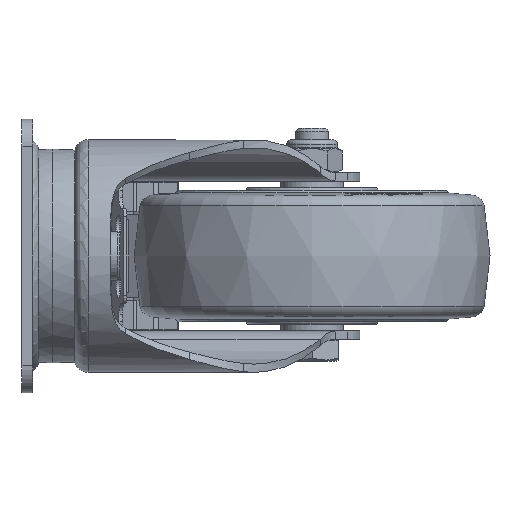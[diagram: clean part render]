
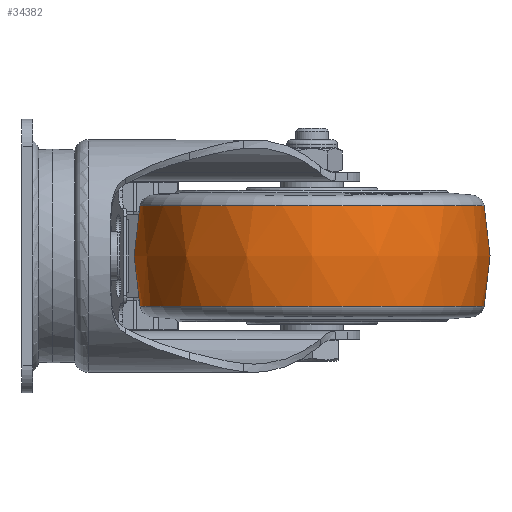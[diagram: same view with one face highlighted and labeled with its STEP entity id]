
A CAD part, left-side view. The second image highlights one B-rep face of the part: STEP entity #34382.
In plain terms, the highlighted free-form (B-spline) face has degree [2, 2] with [3, 9] control points.
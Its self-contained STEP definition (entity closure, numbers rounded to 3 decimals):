
#488=(
BOUNDED_SURFACE()
B_SPLINE_SURFACE(2,2,((#53787,#53788,#53789,#53790,#53791,#53792,#53793,
#53794,#53795),(#53796,#53797,#53798,#53799,#53800,#53801,#53802,#53803,
#53804),(#53805,#53806,#53807,#53808,#53809,#53810,#53811,#53812,#53813)),
 .UNSPECIFIED.,.F.,.T.,.F.)
B_SPLINE_SURFACE_WITH_KNOTS((3,3),(3,2,2,2,3),(-0.233,0.233),
(-3.142,-1.571,0.,1.571,3.142),
 .UNSPECIFIED.)
GEOMETRIC_REPRESENTATION_ITEM()
RATIONAL_B_SPLINE_SURFACE(((1.,0.707,1.,0.707,1.,
0.707,1.,0.707,1.),(0.973,0.688,
0.973,0.688,0.973,0.688,
0.973,0.688,0.973),(1.,0.707,
1.,0.707,1.,0.707,1.,0.707,1.)))
REPRESENTATION_ITEM('')
SURFACE()
);
#7087=FACE_OUTER_BOUND('',#9226,.T.);
#9226=EDGE_LOOP('',(#24387,#24388,#24389,#24390));
#11124=CIRCLE('',#36440,62.847);
#11125=CIRCLE('',#36441,62.847);
#11126=CIRCLE('',#36442,80.);
#14325=VERTEX_POINT('',#53784);
#14326=VERTEX_POINT('',#53814);
#18049=EDGE_CURVE('',#14325,#14325,#11124,.T.);
#18050=EDGE_CURVE('',#14326,#14326,#11125,.T.);
#18051=EDGE_CURVE('',#14326,#14325,#11126,.T.);
#24387=ORIENTED_EDGE('',*,*,#18050,.F.);
#24388=ORIENTED_EDGE('',*,*,#18051,.T.);
#24389=ORIENTED_EDGE('',*,*,#18049,.F.);
#24390=ORIENTED_EDGE('',*,*,#18051,.F.);
#34382=ADVANCED_FACE('',(#7087),#488,.F.);
#36440=AXIS2_PLACEMENT_3D('',#53786,#39696,#39697);
#36441=AXIS2_PLACEMENT_3D('',#53815,#39698,#39699);
#36442=AXIS2_PLACEMENT_3D('',#53816,#39700,#39701);
#39696=DIRECTION('center_axis',(0.,0.,
-1.));
#39697=DIRECTION('ref_axis',(-1.,0.,0.));
#39698=DIRECTION('center_axis',(0.,0.,
1.));
#39699=DIRECTION('ref_axis',(-1.,0.,0.));
#39700=DIRECTION('center_axis',(0.,1.,0.));
#39701=DIRECTION('ref_axis',(1.,0.,0.));
#53784=CARTESIAN_POINT('',(112.847,-106.001,-18.435));
#53786=CARTESIAN_POINT('Origin',(50.,-106.001,-18.435));
#53787=CARTESIAN_POINT('Ctrl Pts',(112.847,-106.001,18.435));
#53788=CARTESIAN_POINT('Ctrl Pts',(112.847,-168.848,18.435));
#53789=CARTESIAN_POINT('Ctrl Pts',(50.,-168.848,18.435));
#53790=CARTESIAN_POINT('Ctrl Pts',(-12.847,-168.848,
18.435));
#53791=CARTESIAN_POINT('Ctrl Pts',(-12.847,-106.001,
18.435));
#53792=CARTESIAN_POINT('Ctrl Pts',(-12.847,-43.154,
18.435));
#53793=CARTESIAN_POINT('Ctrl Pts',(50.,-43.154,18.435));
#53794=CARTESIAN_POINT('Ctrl Pts',(112.847,-43.154,18.435));
#53795=CARTESIAN_POINT('Ctrl Pts',(112.847,-106.001,18.435));
#53796=CARTESIAN_POINT('Ctrl Pts',(117.213,-106.001,0.));
#53797=CARTESIAN_POINT('Ctrl Pts',(117.213,-173.214,0.));
#53798=CARTESIAN_POINT('Ctrl Pts',(50.,-173.214,0.));
#53799=CARTESIAN_POINT('Ctrl Pts',(-17.213,-173.214,
0.));
#53800=CARTESIAN_POINT('Ctrl Pts',(-17.213,-106.001,
0.));
#53801=CARTESIAN_POINT('Ctrl Pts',(-17.213,-38.789,
0.));
#53802=CARTESIAN_POINT('Ctrl Pts',(50.,-38.789,0.));
#53803=CARTESIAN_POINT('Ctrl Pts',(117.213,-38.789,0.));
#53804=CARTESIAN_POINT('Ctrl Pts',(117.213,-106.001,0.));
#53805=CARTESIAN_POINT('Ctrl Pts',(112.847,-106.001,-18.435));
#53806=CARTESIAN_POINT('Ctrl Pts',(112.847,-168.848,-18.435));
#53807=CARTESIAN_POINT('Ctrl Pts',(50.,-168.848,-18.435));
#53808=CARTESIAN_POINT('Ctrl Pts',(-12.847,-168.848,
-18.435));
#53809=CARTESIAN_POINT('Ctrl Pts',(-12.847,-106.001,
-18.435));
#53810=CARTESIAN_POINT('Ctrl Pts',(-12.847,-43.154,
-18.435));
#53811=CARTESIAN_POINT('Ctrl Pts',(50.,-43.154,-18.435));
#53812=CARTESIAN_POINT('Ctrl Pts',(112.847,-43.154,-18.435));
#53813=CARTESIAN_POINT('Ctrl Pts',(112.847,-106.001,-18.435));
#53814=CARTESIAN_POINT('',(112.847,-106.001,18.435));
#53815=CARTESIAN_POINT('Origin',(50.,-106.001,18.435));
#53816=CARTESIAN_POINT('Origin',(35.,-106.001,0.));
